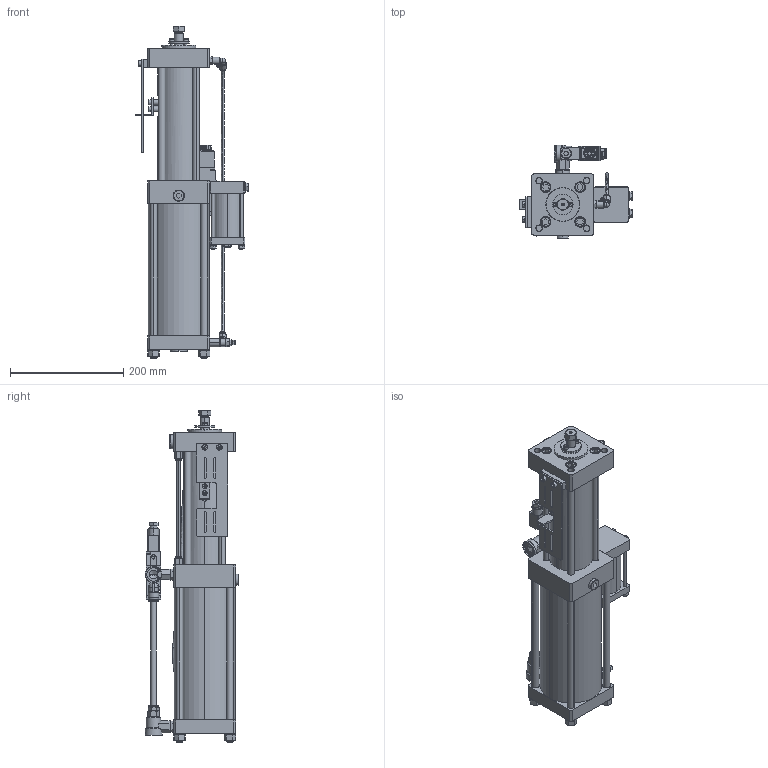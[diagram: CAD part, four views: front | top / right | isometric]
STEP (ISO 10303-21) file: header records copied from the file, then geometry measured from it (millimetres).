
FILE_DESCRIPTION (( 'STEP AP203' ), '1' );
FILE_NAME ('PCT4 10036 VC17.STEP', '2017-12-05T06:35:22', ( '' ), ( '' ), 'SwSTEP 2.0', 'SolidWorks 2015', '' );
FILE_SCHEMA (( 'CONFIG_CONTROL_DESIGN' ));
Length unit declared in the file: millimetre
Products named in the file (39): Janatics-Male elbow_Male elbow; 1 8 BSP PU 6_Janatics-Male connector_Male connector; CONTAINER PRA-03; GASKET; hexagon nut style 1_is_IS 1364-3 - M12-W-N; Part1^PCT; Part2^PCT; plain washer (type a)_is_IS 2016 A- 9; INT TUBE; PCT4 10036 VC17; 18Janatics-Male elbow_Male threaded nipple_Dia 6 x 18; Janatics-WN015152WN015152_WN015152; hexagon fit bolt_is_IS 3640 - M8 x 25 x 14.5-N; INT FEC; 18Janatics-Male elbow_elbow_DIA 6; Janatics-WN015151WN015151_WN015151; QEV; INT TR; 18Janatics-Male elbow_Collet cap_DIA 6; DC VALVE-Janatics-DEFAULT_DS255SR61; (normal) internal_is_IS 3075(Part2) NI- 26; spring lock washer 6735_is_IS 6735- 6; PCT CYL_PCT4 10036 VC17; 1 8 BSP FCV-Janatics-GR2_GR1105006; Janatics-Male elbow_elbow_DIA 10; 1 4 BSP QEV; hexagon nut_is_IS 1363-2 - M6-N; socket head cap screw_is_IS 2269 - M5 x 8-N; Part3^PCT; Janatics-Male elbow_Collet cap_DIA 10; Janatics-Male connector_housing MC_WP2110650; 3 8 BSP PLUG; socket head cap screw_is_IS 2269 - M6 x 10-N; Part4^PCT; Janatics-Male elbow_Male threaded nipple_Dia 10 x 14; Janatics-Male connector_Collet cap_DIA 6; SILENCER; INT REC; spring lock washer 6735_is_IS 6735- 12
Assembly tree (69 placements, depth 3):
  PCT4 10036 VC17
    PCT CYL_PCT4 10036 VC17
    socket head cap screw_is_IS 2269 - M5 x 8-N  x4
    socket head cap screw_is_IS 2269 - M6 x 10-N  x2
    CONTAINER PRA-03
      INT REC
      GASKET  x2
      INT TUBE
      INT FEC
      INT TR  x4
      spring lock washer 6735_is_IS 6735- 6  x4
      hexagon nut_is_IS 1363-2 - M6-N  x4
      3 8 BSP PLUG
      SILENCER
    plain washer (type a)_is_IS 2016 A- 9  x2
    hexagon fit bolt_is_IS 3640 - M8 x 25 x 14.5-N  x2
    1 4 BSP QEV
      QEV
      (normal) internal_is_IS 3075(Part2) NI- 26
    QEV
    1 8 BSP PU 6_Janatics-Male connector_Male connector  x2
      Janatics-Male connector_housing MC_WP2110650
      Janatics-Male connector_Collet cap_DIA 6
    Part2^PCT
    Janatics-WN015152WN015152_WN015152  x2
    Janatics-WN015151WN015151_WN015151
    DC VALVE-Janatics-DEFAULT_DS255SR61
    (normal) internal_is_IS 3075(Part2) NI- 26
    Janatics-Male elbow_Male elbow
      Janatics-Male elbow_elbow_DIA 10
      Janatics-Male elbow_Collet cap_DIA 10
      Janatics-Male elbow_Male threaded nipple_Dia 10 x 14
    Janatics-Male elbow_Collet cap_DIA 10  x2
    Janatics-Male elbow_Male threaded nipple_Dia 10 x 14  x2
    Part1^PCT
    SILENCER  x2
    18Janatics-Male elbow_Male threaded nipple_Dia 6 x 18
    18Janatics-Male elbow_elbow_DIA 6
    18Janatics-Male elbow_Collet cap_DIA 6
    1 8 BSP FCV-Janatics-GR2_GR1105006
    Part4^PCT
    spring lock washer 6735_is_IS 6735- 12  x4
    hexagon nut style 1_is_IS 1364-3 - M12-W-N  x4
  Part3^PCT
Bounding box: 200.6 x 166 x 587 mm (x, y, z)
Volume: 4786294.3 mm3; surface area: 603468.8 mm2
Topology: 87 solids, 88 shells, 4349 faces, 10948 edges, 6919 vertices
Faces by surface type: plane 1938, cylinder 1342, cone 732, torus 177, bspline 145, sphere 15
Entity records: 107562 total; most frequent: CARTESIAN_POINT 25801, ORIENTED_EDGE 16104, DIRECTION 15987, EDGE_CURVE 8052, AXIS2_PLACEMENT_3D 5844, VERTEX_POINT 5148, LINE 4299, VECTOR 4299
